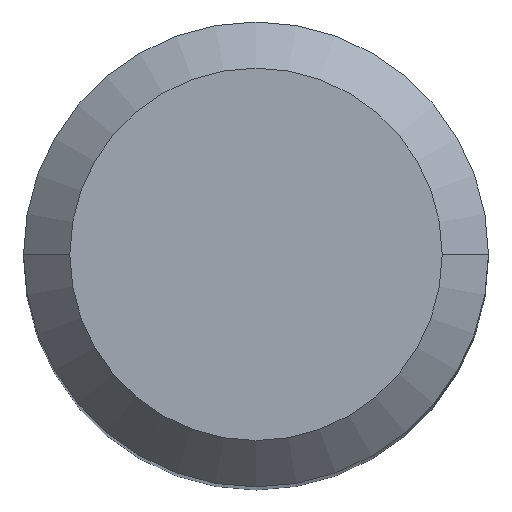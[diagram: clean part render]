
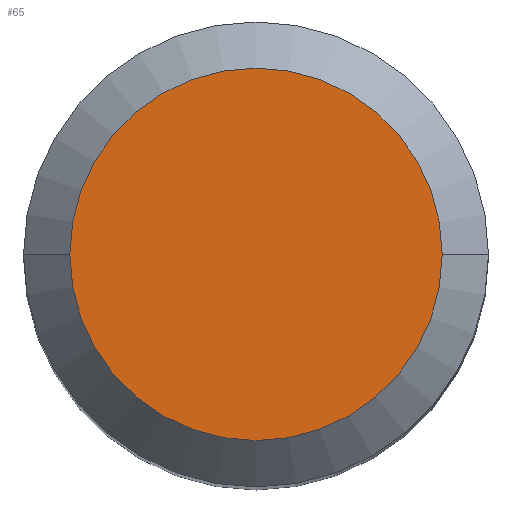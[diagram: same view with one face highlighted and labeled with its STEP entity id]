
A CAD part, top view. The second image highlights one B-rep face of the part: STEP entity #65.
In plain terms, the highlighted planar face has unit normal (0, 0, 1).
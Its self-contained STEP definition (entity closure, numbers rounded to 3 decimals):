
#55=PLANE('',#173);
#65=ADVANCED_FACE('',(#73),#55,.T.);
#73=FACE_OUTER_BOUND('',#81,.F.);
#81=EDGE_LOOP('',(#108,#109));
#108=ORIENTED_EDGE('',*,*,#139,.F.);
#109=ORIENTED_EDGE('',*,*,#129,.F.);
#129=EDGE_CURVE('',#149,#148,#143,.T.);
#139=EDGE_CURVE('',#148,#149,#147,.T.);
#143=CIRCLE('',#161,0.403);
#147=CIRCLE('',#165,0.403);
#148=VERTEX_POINT('',#218);
#149=VERTEX_POINT('',#219);
#161=AXIS2_PLACEMENT_3D('',#229,#183,#184);
#165=AXIS2_PLACEMENT_3D('',#239,#197,#198);
#173=AXIS2_PLACEMENT_3D('',#247,#213,#214);
#183=DIRECTION('',(0.,0.,1.));
#184=DIRECTION('',(-1.,0.,0.));
#197=DIRECTION('',(0.,0.,1.));
#198=DIRECTION('',(1.,0.,0.));
#213=DIRECTION('',(0.,0.,1.));
#214=DIRECTION('',(0.,-1.,0.));
#218=CARTESIAN_POINT('',(150.402,107.5,-46.9));
#219=CARTESIAN_POINT('',(149.597,107.5,-46.9));
#229=CARTESIAN_POINT('',(150.,107.5,-46.9));
#239=CARTESIAN_POINT('',(150.,107.5,-46.9));
#247=CARTESIAN_POINT('',(149.589,107.911,-46.9));
